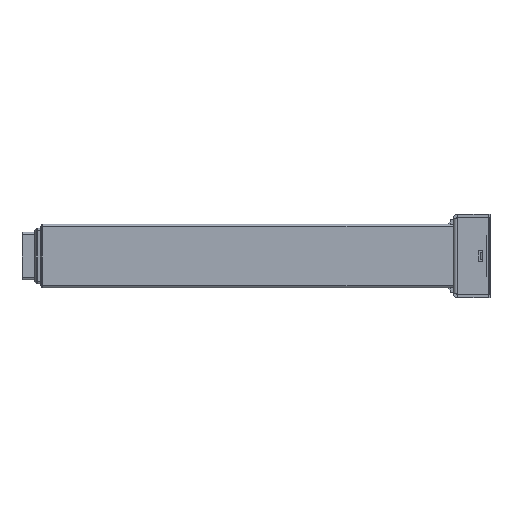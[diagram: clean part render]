
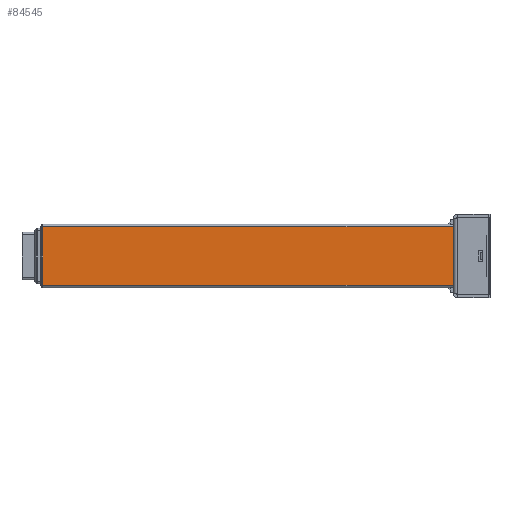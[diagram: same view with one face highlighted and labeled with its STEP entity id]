
A CAD part, left-side view. The second image highlights one B-rep face of the part: STEP entity #84545.
In plain terms, the highlighted planar face has unit normal (-1, 0, 0).
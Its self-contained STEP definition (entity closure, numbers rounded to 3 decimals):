
#3342 = VECTOR ( 'NONE', #28564, 39.37 ) ;
#3677 = CARTESIAN_POINT ( 'NONE',  ( -17.734, -18.015, 20.407 ) ) ;
#5376 = CARTESIAN_POINT ( 'NONE',  ( -17.734, -18.015, 20.525 ) ) ;
#6691 = VERTEX_POINT ( 'NONE', #96896 ) ;
#10169 = FACE_OUTER_BOUND ( 'NONE', #92914, .T. ) ;
#11330 = PLANE ( 'NONE',  #51957 ) ;
#13102 = CARTESIAN_POINT ( 'NONE',  ( -17.734, 2.398, 23.439 ) ) ;
#14561 = DIRECTION ( 'NONE',  ( 0., 1., 0. ) ) ;
#19772 = ORIENTED_EDGE ( 'NONE', *, *, #63555, .F. ) ;
#20205 = DIRECTION ( 'NONE',  ( 0., 0., -1. ) ) ;
#25807 = LINE ( 'NONE', #54618, #3342 ) ;
#27850 = LINE ( 'NONE', #13102, #98339 ) ;
#28564 = DIRECTION ( 'NONE',  ( 0., -1., 0. ) ) ;
#32686 = ORIENTED_EDGE ( 'NONE', *, *, #37539, .T. ) ;
#36924 = CARTESIAN_POINT ( 'NONE',  ( -17.734, 2.398, 20.407 ) ) ;
#37539 = EDGE_CURVE ( 'NONE', #47874, #81192, #25807, .T. ) ;
#47117 = ORIENTED_EDGE ( 'NONE', *, *, #81215, .T. ) ;
#47874 = VERTEX_POINT ( 'NONE', #65942 ) ;
#51957 = AXIS2_PLACEMENT_3D ( 'NONE', #36924, #52928, #20205 ) ;
#52928 = DIRECTION ( 'NONE',  ( 1., 0., 0. ) ) ;
#53756 = DIRECTION ( 'NONE',  ( 0., 0., 1. ) ) ;
#54060 = CARTESIAN_POINT ( 'NONE',  ( -17.734, 2.398, 20.407 ) ) ;
#54618 = CARTESIAN_POINT ( 'NONE',  ( -17.734, 2.398, 20.525 ) ) ;
#58121 = EDGE_CURVE ( 'NONE', #81192, #6691, #79159, .T. ) ;
#58189 = CARTESIAN_POINT ( 'NONE',  ( -17.734, 2.398, 23.439 ) ) ;
#63555 = EDGE_CURVE ( 'NONE', #47874, #67779, #105719, .T. ) ;
#65845 = VECTOR ( 'NONE', #86409, 39.37 ) ;
#65942 = CARTESIAN_POINT ( 'NONE',  ( -17.734, 2.398, 20.525 ) ) ;
#67779 = VERTEX_POINT ( 'NONE', #58189 ) ;
#78968 = ORIENTED_EDGE ( 'NONE', *, *, #58121, .T. ) ;
#79159 = LINE ( 'NONE', #3677, #108471 ) ;
#81192 = VERTEX_POINT ( 'NONE', #5376 ) ;
#81215 = EDGE_CURVE ( 'NONE', #6691, #67779, #27850, .T. ) ;
#84545 = ADVANCED_FACE ( 'NONE', ( #10169 ), #11330, .F. ) ;
#86409 = DIRECTION ( 'NONE',  ( 0., 0., 1. ) ) ;
#92914 = EDGE_LOOP ( 'NONE', ( #19772, #32686, #78968, #47117 ) ) ;
#96896 = CARTESIAN_POINT ( 'NONE',  ( -17.734, -18.015, 23.439 ) ) ;
#98339 = VECTOR ( 'NONE', #14561, 39.37 ) ;
#105719 = LINE ( 'NONE', #54060, #65845 ) ;
#108471 = VECTOR ( 'NONE', #53756, 39.37 ) ;
